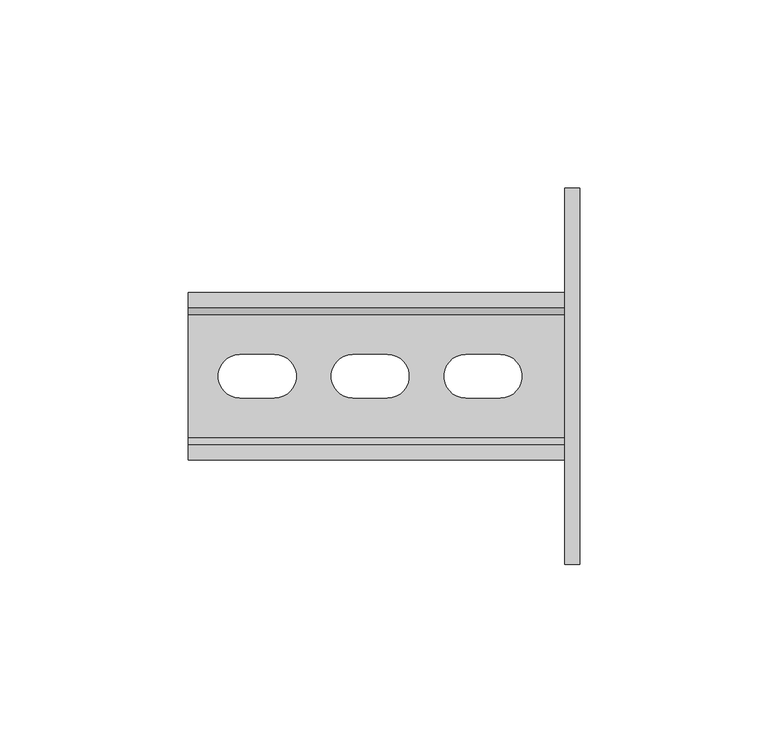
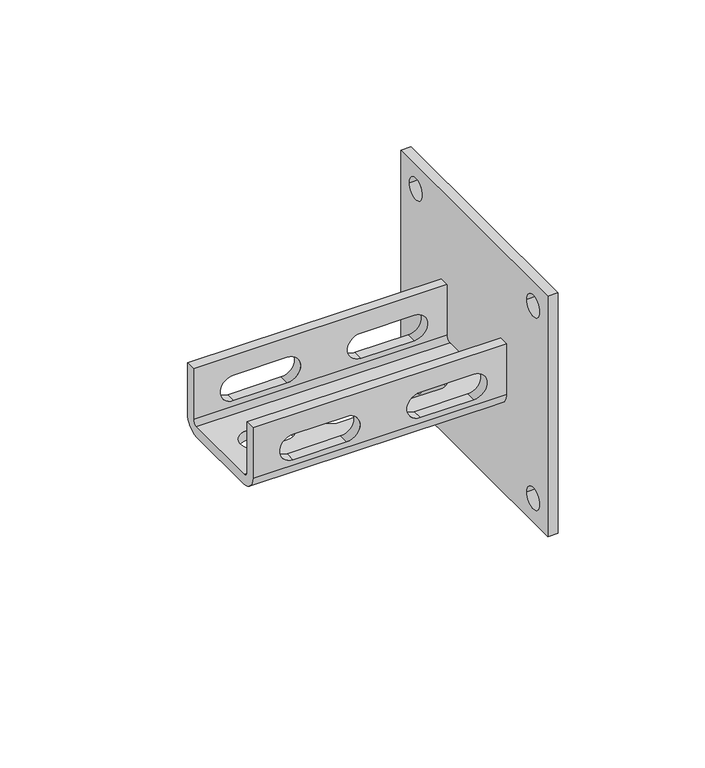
"""IFC4 building model written with IfcOpenShell, lengths in millimetres: valve geometry, SuperFix U Wall Plate  : SuperFix U Wall Plate ."""

import ifcopenshell
import ifcopenshell.guid

model = None  # the IFC model being written
_history = None  # IfcOwnerHistory: only IFC2X3 demands one
_inside = {}  # id of a spatial element -> (the spatial element, [elements in it])
_under = {}  # id of a project, library or spatial element -> (it, [spatial elements below it])
_declared = {}  # id of a project -> (the project, [libraries it declares])
_typed = {}  # id of a type object -> (the type object, [elements of that type])
_made_of = {}  # id of a material, layer set ... -> (it, [elements and type objects made of it])


def new_model(schema):
    """Start an empty IFC model of exactly this schema.

    Asked for "IFC4X3", IfcOpenShell would pick the latest addendum, in which some entities
    have other attributes; the version numbers below select the first issue.
    IFC2X3 requires an IfcOwnerHistory on every rooted entity: one is made here for all.
    """
    global model, _history
    if schema == "IFC4X3":
        model = ifcopenshell.file(schema_version=(4, 3, 0, 0))
    else:
        model = ifcopenshell.file(schema=schema)
    _inside.clear()
    _under.clear()
    _declared.clear()
    _typed.clear()
    _made_of.clear()
    _history = None
    if model.schema == "IFC2X3":
        org = make("IfcOrganization", Name="unknown")
        user = make(
            "IfcPersonAndOrganization",
            ThePerson=make("IfcPerson", FamilyName="unknown"),
            TheOrganization=org,
        )
        app = make(
            "IfcApplication",
            ApplicationDeveloper=org,
            Version="unknown",
            ApplicationFullName="unknown",
            ApplicationIdentifier="unknown",
        )
        _history = make(
            "IfcOwnerHistory",
            OwningUser=user,
            OwningApplication=app,
            ChangeAction="ADDED",
            CreationDate=0,
        )
    return model


def make(cls, **values):
    """One entity of the class cls with the attributes given. An attribute that is None is left unset."""
    return model.create_entity(
        cls, **{name: value for name, value in values.items() if value is not None}
    )


def rooted(cls, **values):
    """An entity with a GlobalId (a new one), such as an element, a storey or a relation."""
    return make(cls, GlobalId=ifcopenshell.guid.new(), OwnerHistory=_history, **values)


def si_unit(unit_type, name, prefix=None):
    """IfcSIUnit, for example si_unit("LENGTHUNIT", "METRE", prefix="MILLI")."""
    return make("IfcSIUnit", UnitType=unit_type, Prefix=prefix, Name=name)


def assignment(units):
    """IfcUnitAssignment: the units of a project."""
    return None if units is None else make("IfcUnitAssignment", Units=units)


def point(xyz):
    """IfcCartesianPoint."""
    return None if xyz is None else make("IfcCartesianPoint", Coordinates=xyz)


def direction(xyz):
    """IfcDirection."""
    return None if xyz is None else make("IfcDirection", DirectionRatios=xyz)


def frame(location, z_axis=None, x_axis=None):
    """IfcAxis2Placement3D, a coordinate frame: its origin and axes. An axis left out is left unset."""
    return make(
        "IfcAxis2Placement3D",
        Location=point(location),
        Axis=direction(z_axis),
        RefDirection=direction(x_axis),
    )


def frame_2d(location, x_axis=None):
    """IfcAxis2Placement2D, a coordinate frame in the plane: its origin and x axis."""
    return make(
        "IfcAxis2Placement2D", Location=point(location), RefDirection=direction(x_axis)
    )


def origin():
    """The frame at (0, 0, 0) with its axes left unset."""
    return frame((0.0, 0.0, 0.0))


def place(relative_to, where):
    """IfcLocalPlacement: puts the frame where relative to a parent placement (None: the world)."""
    return make(
        "IfcLocalPlacement", PlacementRelTo=relative_to, RelativePlacement=where
    )


def context(
    kind, dimensions, precision=None, world=None, true_north=None, identifier=None
):
    """IfcGeometricRepresentationContext, for example the 3D "Model" context."""
    return make(
        "IfcGeometricRepresentationContext",
        ContextIdentifier=identifier,
        ContextType=kind,
        CoordinateSpaceDimension=dimensions,
        Precision=precision,
        WorldCoordinateSystem=world,
        TrueNorth=true_north,
    )


def project(units=None, contexts=None):
    """IfcProject with its units and contexts."""
    return rooted(
        "IfcProject",
        Name="project",
        RepresentationContexts=contexts,
        UnitsInContext=assignment(units),
    )


def spatial(cls, under=None, at=None, **own):
    """A site, building, storey or space (cls), placed at a placement, below another one or the project."""
    s = rooted(cls, ObjectPlacement=at, **own)
    if under is not None:
        _under.setdefault(under.id(), (under, []))[1].append(s)
    return s


def polyline(points):
    """IfcPolyline through the points."""
    return make("IfcPolyline", Points=[point(p) for p in points])


def circle_curve(where, radius):
    """IfcCircle in the frame where."""
    return make("IfcCircle", Position=where, Radius=radius)


def trimmed(basis, trim1, trim2, sense, master):
    """IfcTrimmedCurve: the piece of a basis curve between two trims."""
    return make(
        "IfcTrimmedCurve",
        BasisCurve=basis,
        Trim1=trim1,
        Trim2=trim2,
        SenseAgreement=sense,
        MasterRepresentation=master,
    )


def segment(curve, same_sense, transition):
    """IfcCompositeCurveSegment."""
    return make(
        "IfcCompositeCurveSegment",
        Transition=transition,
        SameSense=same_sense,
        ParentCurve=curve,
    )


def composite_curve(segments, self_intersect=None):
    """IfcCompositeCurve: segments joined end to end."""
    return make("IfcCompositeCurve", Segments=segments, SelfIntersect=self_intersect)


def outline(outer, holes=None, kind="AREA"):
    """IfcArbitraryClosedProfileDef: a profile drawn as a closed curve; with holes, ...WithVoids."""
    if holes is None:
        return make("IfcArbitraryClosedProfileDef", ProfileType=kind, OuterCurve=outer)
    return make(
        "IfcArbitraryProfileDefWithVoids",
        ProfileType=kind,
        OuterCurve=outer,
        InnerCurves=holes,
    )


def extrude(swept, where, along, depth):
    """IfcExtrudedAreaSolid: the profile swept, set in the frame where, extruded along a direction by depth."""
    return make(
        "IfcExtrudedAreaSolid",
        SweptArea=swept,
        Position=where,
        ExtrudedDirection=direction(along),
        Depth=depth,
    )


def shape(context_of_items, identifier, shape_type, items):
    """IfcShapeRepresentation: the items that make up one representation, for example the "Body"."""
    return make(
        "IfcShapeRepresentation",
        ContextOfItems=context_of_items,
        RepresentationIdentifier=identifier,
        RepresentationType=shape_type,
        Items=items,
    )


def source(mapping_origin, context_of_items, identifier, shape_type, items):
    """IfcRepresentationMap: a shape defined once, which mapped items show again and again."""
    return make(
        "IfcRepresentationMap",
        MappingOrigin=mapping_origin,
        MappedRepresentation=shape(context_of_items, identifier, shape_type, items),
    )


def transform(
    local_origin,
    x_axis=None,
    y_axis=None,
    z_axis=None,
    scale=None,
    scale2=None,
    scale3=None,
    uniform=True,
):
    """IfcCartesianTransformationOperator3D, or its non-uniform kind. x_axis, y_axis, z_axis: its Axis1, 2, 3."""
    if uniform:
        return make(
            "IfcCartesianTransformationOperator3D",
            Axis1=direction(x_axis),
            Axis2=direction(y_axis),
            LocalOrigin=point(local_origin),
            Scale=scale,
            Axis3=direction(z_axis),
        )
    return make(
        "IfcCartesianTransformationOperator3DnonUniform",
        Axis1=direction(x_axis),
        Axis2=direction(y_axis),
        LocalOrigin=point(local_origin),
        Scale=scale,
        Axis3=direction(z_axis),
        Scale2=scale2,
        Scale3=scale3,
    )


def mapped(mapping_source, mapping_target):
    """IfcMappedItem: shows the shape of a source again, moved by a transform."""
    return make(
        "IfcMappedItem", MappingSource=mapping_source, MappingTarget=mapping_target
    )


def made_of(thing, what):
    """Note that an element or type object is made of a material, layer set ...; save() writes the relation."""
    if what is not None:
        _made_of.setdefault(what.id(), (what, []))[1].append(thing)
    return thing


def element(
    cls,
    number,
    at=None,
    inside=None,
    cuts=None,
    type_object=None,
    material=None,
    context=None,
    identifier="Body",
    shape_type=None,
    held_by="IfcProductDefinitionShape",
    body=None,
    shapes=None,
    **own,
):
    """One element of the class cls, such as IfcWall. Its Tag is "e" and its number.

    at: its placement. inside: the storey or other place that contains it. cuts: it is an
    opening in that element (IfcRelVoidsElement). A single representation is given by context,
    identifier, shape_type and body (its items); several are given by shapes. held_by: the class
    of the entity that holds the representations. save() writes the other relations.
    """
    e = rooted(cls, Tag="e%d" % number, ObjectPlacement=at, **own)
    if body is not None:
        shapes = [shape(context, identifier, shape_type, body)]
    if shapes is not None:
        e.Representation = make(held_by, Representations=shapes)
    if inside is not None:
        _inside.setdefault(inside.id(), (inside, []))[1].append(e)
    if cuts is not None:
        rooted(
            "IfcRelVoidsElement", RelatingBuildingElement=cuts, RelatedOpeningElement=e
        )
    if type_object is not None:
        _typed.setdefault(type_object.id(), (type_object, []))[1].append(e)
    return made_of(e, material)


def aggregate(whole, parts):
    """IfcRelAggregates: a whole, such as a stair, and the parts it consists of."""
    return rooted("IfcRelAggregates", RelatingObject=whole, RelatedObjects=parts)


def save(model, path):
    """Write the relations noted so far, then the file.

    IfcRelAggregates (storeys below a building ...), IfcRelContainedInSpatialStructure (elements
    in a storey), IfcRelDefinesByType, IfcRelAssociatesMaterial and IfcRelDeclares: one each for
    every whole, place, type object, material and project.
    """
    for whole, parts in _under.values():
        aggregate(whole, parts)
    for where, things in _inside.values():
        rooted(
            "IfcRelContainedInSpatialStructure",
            RelatedElements=things,
            RelatingStructure=where,
        )
    for kind, things in _typed.values():
        rooted("IfcRelDefinesByType", RelatedObjects=things, RelatingType=kind)
    for what, things in _made_of.values():
        rooted("IfcRelAssociatesMaterial", RelatedObjects=things, RelatingMaterial=what)
    for by, libraries in _declared.values():
        rooted("IfcRelDeclares", RelatingContext=by, RelatedDefinitions=libraries)
    model.write(path)


def plane_surface(at):
    """IfcPlane: the flat surface through the origin of the frame at, square to its z axis."""
    return make("IfcPlane", Position=at)


def cylinder_surface(at, radius):
    """IfcCylindricalSurface: all points at the distance radius from the z axis of the frame at."""
    return make("IfcCylindricalSurface", Position=at, Radius=radius)


def revolved_surface(curve, axis_point, axis_direction):
    """IfcSurfaceOfRevolution: the curve turned about the line through axis_point along axis_direction."""
    return make(
        "IfcSurfaceOfRevolution",
        SweptCurve=make("IfcArbitraryOpenProfileDef", ProfileType="CURVE", Curve=curve),
        AxisPosition=make("IfcAxis1Placement", Location=point(axis_point), Axis=direction(axis_direction)),
    )


def advanced_brep(points, edges, surfaces, faces):
    """IfcAdvancedBrep: a solid bounded by faces that lie on surfaces and meet in shared edges.

    An edge is (start, end): straight between two places in points (the first is 0);
    or (start, end, curve); or (start, end, curve, False) where it runs against its curve.
    A face is (place in surfaces, loops), or (place, loops, False) where it looks against
    its surface's normal. A loop lists edges by number (the first is 1), with a minus sign
    where the edge is run from its end to its start. The first loop is the outer one.
    """
    corners = [point(p) for p in points]
    vertices = [make("IfcVertexPoint", VertexGeometry=c) for c in corners]
    made = []
    for start, end, *more in edges:
        made.append(
            make(
                "IfcEdgeCurve",
                EdgeStart=vertices[start],
                EdgeEnd=vertices[end],
                EdgeGeometry=more[0] if more else make("IfcPolyline", Points=[corners[start], corners[end]]),
                SameSense=more[1] if len(more) > 1 else True,
            )
        )
    hull = []
    for where, loops, *sense in faces:
        bounds = []
        for j, loop in enumerate(loops):
            ring = [make("IfcOrientedEdge", EdgeElement=made[abs(k) - 1], Orientation=k > 0) for k in loop]
            bounds.append(
                make(
                    "IfcFaceOuterBound" if j == 0 else "IfcFaceBound",
                    Bound=make("IfcEdgeLoop", EdgeList=ring),
                    Orientation=True,
                )
            )
        hull.append(make("IfcAdvancedFace", Bounds=bounds, FaceSurface=surfaces[where], SameSense=sense[0] if sense else True))
    return make("IfcAdvancedBrep", Outer=make("IfcClosedShell", CfsFaces=hull))


def valve_466bc10e(model_context):
    return source(origin(), model_context, "Body", "SolidModel", [
        extrude(outline(polyline([(-50.0, 63.5), (50.0, 63.5), (50.0, -36.5), (-50.0, -36.5), (-50.0, 63.5)]), holes=[composite_curve([segment(trimmed(circle_curve(frame_2d((40.0, -26.5)), 4.4), [point((35.6, -26.5))], [point((44.4, -26.5))], True, "CARTESIAN"), True, "CONTINUOUS"), segment(trimmed(circle_curve(frame_2d((40.0, -26.5)), 4.4), [point((44.4, -26.5))], [point((35.6, -26.5))], True, "CARTESIAN"), True, "CONTINUOUS")], self_intersect=False), composite_curve([segment(trimmed(circle_curve(frame_2d((-40.0, -26.5)), 4.4), [point((-44.4, -26.5))], [point((-35.6, -26.5))], True, "CARTESIAN"), True, "CONTINUOUS"), segment(trimmed(circle_curve(frame_2d((-40.0, -26.5)), 4.4), [point((-35.6, -26.5))], [point((-44.4, -26.5))], True, "CARTESIAN"), True, "CONTINUOUS")], self_intersect=False), composite_curve([segment(trimmed(circle_curve(frame_2d((-40.0, 53.5)), 4.4), [point((-44.4, 53.5))], [point((-35.6, 53.5))], True, "CARTESIAN"), True, "CONTINUOUS"), segment(trimmed(circle_curve(frame_2d((-40.0, 53.5)), 4.4), [point((-35.6, 53.5))], [point((-44.4, 53.5))], True, "CARTESIAN"), True, "CONTINUOUS")], self_intersect=False), composite_curve([segment(trimmed(circle_curve(frame_2d((40.0, 53.5)), 4.4), [point((35.6, 53.5))], [point((44.4, 53.5))], True, "CARTESIAN"), True, "CONTINUOUS"), segment(trimmed(circle_curve(frame_2d((40.0, 53.5)), 4.4), [point((44.4, 53.5))], [point((35.6, 53.5))], True, "CARTESIAN"), True, "CONTINUOUS")], self_intersect=False)]), frame((-4.0, 0.0, 0.0), z_axis=(1.0, 0.0, 0.0), x_axis=(0.0, 1.0, 0.0)), (0.0, 0.0, 1.0), 4.0),
        advanced_brep(
        [(-4.0, -22.25, 6.0), (-4.0, -16.25, 0.0), (-4.0, 16.25, 0.0), (-4.0, 22.25, 6.0), (-4.0, 22.25, 27.0), (-4.0, 18.25, 27.0), (-4.0, 18.25, 6.0), (-4.0, 16.25, 4.0), (-4.0, -16.25, 4.0), (-4.0, -18.25, 6.0), (-4.0, -18.25, 27.0), (-4.0, -22.25, 27.0), (-104.0, -22.25, 6.0), (-104.0, -22.25, 27.0), (-104.0, -18.25, 27.0), (-104.0, -18.25, 6.0), (-104.0, -16.25, 4.0), (-104.0, 16.25, 4.0), (-104.0, 18.25, 6.0), (-104.0, 18.25, 27.0), (-104.0, 22.25, 27.0), (-104.0, 22.25, 6.0), (-104.0, 16.25, 0.0), (-104.0, -16.25, 0.0), (-60.2929032, 5.75, 0.0), (-60.2929032, -5.75, 0.0), (-51.0885659, -5.75, 0.0), (-51.0885659, 5.75, 0.0), (-30.2929032, 5.75, 0.0), (-30.2929032, -5.75, 0.0), (-21.0885659, -5.75, 0.0), (-21.0885659, 5.75, 0.0), (-90.2929032, 5.75, 0.0), (-90.2929032, -5.75, 0.0), (-81.0885659, -5.75, 0.0), (-81.0885659, 5.75, 0.0), (-17.1329383, 22.25, 18.75), (-38.1329383, 22.25, 18.75), (-38.1329383, 22.25, 8.2618096), (-17.1329383, 22.25, 8.2618096), (-67.1329383, 22.25, 18.75), (-88.1329383, 22.25, 18.75), (-88.1329383, 22.25, 8.2618096), (-67.1329383, 22.25, 8.2618096), (-38.1329383, 18.25, 18.75), (-17.1329383, 18.25, 18.75), (-17.1329383, 18.25, 8.2618096), (-38.1329383, 18.25, 8.2618096), (-88.1329383, 18.25, 18.75), (-67.1329383, 18.25, 18.75), (-67.1329383, 18.25, 8.2618096), (-88.1329383, 18.25, 8.2618096), (-60.2929032, -5.75, 4.0), (-60.2929032, 5.75, 4.0), (-51.0885659, 5.75, 4.0), (-51.0885659, -5.75, 4.0), (-30.2929032, -5.75, 4.0), (-30.2929032, 5.75, 4.0), (-21.0885659, 5.75, 4.0), (-21.0885659, -5.75, 4.0), (-90.2929032, -5.75, 4.0), (-90.2929032, 5.75, 4.0), (-81.0885659, 5.75, 4.0), (-81.0885659, -5.75, 4.0), (-17.1329383, -18.25, 18.75), (-38.1329383, -18.25, 18.75), (-38.1329383, -18.25, 8.2618096), (-17.1329383, -18.25, 8.2618096), (-67.1329383, -18.25, 18.75), (-88.1329383, -18.25, 18.75), (-88.1329383, -18.25, 8.2618096), (-67.1329383, -18.25, 8.2618096), (-38.1329383, -22.25, 18.75), (-17.1329383, -22.25, 18.75), (-17.1329383, -22.25, 8.2618096), (-38.1329383, -22.25, 8.2618096), (-88.1329383, -22.25, 18.75), (-67.1329383, -22.25, 18.75), (-67.1329383, -22.25, 8.2618096), (-88.1329383, -22.25, 8.2618096)],
        [
            (0, 1, circle_curve(frame((-4.0, -16.25, 6.0), z_axis=(1.0, 0.0, 0.0), x_axis=(0.0, 1.0, 0.0)), 6.0)),
            (1, 2),
            (2, 3, circle_curve(frame((-4.0, 16.25, 6.0), z_axis=(1.0, 0.0, 0.0), x_axis=(0.0, 1.0, 0.0)), 6.0)),
            (3, 4),
            (4, 5),
            (5, 6),
            (6, 7, circle_curve(frame((-4.0, 16.25, 6.0), z_axis=(-1.0, 0.0, 0.0), x_axis=(0.0, 1.0, 0.0)), 2.0)),
            (7, 8),
            (8, 9, circle_curve(frame((-4.0, -16.25, 6.0), z_axis=(-1.0, 0.0, 0.0), x_axis=(0.0, 1.0, 0.0)), 2.0)),
            (9, 10),
            (10, 11),
            (11, 0),
            (12, 13),
            (13, 14),
            (14, 15),
            (15, 16, circle_curve(frame((-104.0, -16.25, 6.0), z_axis=(1.0, 0.0, 0.0), x_axis=(0.0, 1.0, 0.0)), 2.0)),
            (16, 17),
            (17, 18, circle_curve(frame((-104.0, 16.25, 6.0), z_axis=(1.0, 0.0, 0.0), x_axis=(0.0, 1.0, 0.0)), 2.0)),
            (18, 19),
            (19, 20),
            (20, 21),
            (21, 22, circle_curve(frame((-104.0, 16.25, 6.0), z_axis=(-1.0, 0.0, 0.0), x_axis=(0.0, 1.0, 0.0)), 6.0)),
            (22, 23),
            (23, 12, circle_curve(frame((-104.0, -16.25, 6.0), z_axis=(-1.0, 0.0, 0.0), x_axis=(0.0, 1.0, 0.0)), 6.0)),
            (1, 23),
            (22, 2),
            (24, 25, circle_curve(frame((-60.2929032, 0.0, 0.0), z_axis=(0.0, 0.0, 1.0), x_axis=(1.0, 0.0, 0.0)), 5.75)),
            (25, 26),
            (26, 27, circle_curve(frame((-51.0885659, 0.0, 0.0), z_axis=(0.0, 0.0, 1.0), x_axis=(1.0, 0.0, 0.0)), 5.75)),
            (27, 24),
            (28, 29, circle_curve(frame((-30.2929032, 0.0, 0.0), z_axis=(0.0, 0.0, 1.0), x_axis=(1.0, 0.0, 0.0)), 5.75)),
            (29, 30),
            (30, 31, circle_curve(frame((-21.0885659, 0.0, 0.0), z_axis=(0.0, 0.0, 1.0), x_axis=(1.0, 0.0, 0.0)), 5.75)),
            (31, 28),
            (32, 33, circle_curve(frame((-90.2929032, 0.0, 0.0), z_axis=(0.0, 0.0, 1.0), x_axis=(1.0, 0.0, 0.0)), 5.75)),
            (33, 34),
            (34, 35, circle_curve(frame((-81.0885659, 0.0, 0.0), z_axis=(0.0, 0.0, 1.0), x_axis=(1.0, 0.0, 0.0)), 5.75)),
            (35, 32),
            (3, 21),
            (20, 4),
            (36, 37),
            (37, 38, circle_curve(frame((-38.1329383, 22.25, 13.5059048), z_axis=(0.0, -1.0, 0.0), x_axis=(0.0, 0.0, 1.0)), 5.2440952)),
            (38, 39),
            (39, 36, circle_curve(frame((-17.1329383, 22.25, 13.5059048), z_axis=(0.0, -1.0, 0.0), x_axis=(0.0, 0.0, 1.0)), 5.2440952)),
            (40, 41),
            (41, 42, circle_curve(frame((-88.1329383, 22.25, 13.5059048), z_axis=(0.0, -1.0, 0.0), x_axis=(0.0, 0.0, 1.0)), 5.2440952)),
            (42, 43),
            (43, 40, circle_curve(frame((-67.1329383, 22.25, 13.5059048), z_axis=(0.0, -1.0, 0.0), x_axis=(0.0, 0.0, 1.0)), 5.2440952)),
            (5, 19),
            (18, 6),
            (44, 45),
            (45, 46, circle_curve(frame((-17.1329383, 18.25, 13.5059048), z_axis=(0.0, 1.0, 0.0), x_axis=(0.0, 0.0, 1.0)), 5.2440952)),
            (46, 47),
            (47, 44, circle_curve(frame((-38.1329383, 18.25, 13.5059048), z_axis=(0.0, 1.0, 0.0), x_axis=(0.0, 0.0, 1.0)), 5.2440952)),
            (48, 49),
            (49, 50, circle_curve(frame((-67.1329383, 18.25, 13.5059048), z_axis=(0.0, 1.0, 0.0), x_axis=(0.0, 0.0, 1.0)), 5.2440952)),
            (50, 51),
            (51, 48, circle_curve(frame((-88.1329383, 18.25, 13.5059048), z_axis=(0.0, 1.0, 0.0), x_axis=(0.0, 0.0, 1.0)), 5.2440952)),
            (7, 17),
            (16, 8),
            (52, 53, circle_curve(frame((-60.2929032, 0.0, 4.0), z_axis=(0.0, 0.0, -1.0), x_axis=(1.0, 0.0, 0.0)), 5.75)),
            (53, 54),
            (54, 55, circle_curve(frame((-51.0885659, 0.0, 4.0), z_axis=(0.0, 0.0, -1.0), x_axis=(1.0, 0.0, 0.0)), 5.75)),
            (55, 52),
            (56, 57, circle_curve(frame((-30.2929032, 0.0, 4.0), z_axis=(0.0, 0.0, -1.0), x_axis=(1.0, 0.0, 0.0)), 5.75)),
            (57, 58),
            (58, 59, circle_curve(frame((-21.0885659, 0.0, 4.0), z_axis=(0.0, 0.0, -1.0), x_axis=(1.0, 0.0, 0.0)), 5.75)),
            (59, 56),
            (60, 61, circle_curve(frame((-90.2929032, 0.0, 4.0), z_axis=(0.0, 0.0, -1.0), x_axis=(1.0, 0.0, 0.0)), 5.75)),
            (61, 62),
            (62, 63, circle_curve(frame((-81.0885659, 0.0, 4.0), z_axis=(0.0, 0.0, -1.0), x_axis=(1.0, 0.0, 0.0)), 5.75)),
            (63, 60),
            (9, 15),
            (14, 10),
            (64, 65),
            (65, 66, circle_curve(frame((-38.1329383, -18.25, 13.5059048), z_axis=(0.0, -1.0, 0.0), x_axis=(0.0, 0.0, 1.0)), 5.2440952)),
            (66, 67),
            (67, 64, circle_curve(frame((-17.1329383, -18.25, 13.5059048), z_axis=(0.0, -1.0, 0.0), x_axis=(0.0, 0.0, 1.0)), 5.2440952)),
            (68, 69),
            (69, 70, circle_curve(frame((-88.1329383, -18.25, 13.5059048), z_axis=(0.0, -1.0, 0.0), x_axis=(0.0, 0.0, 1.0)), 5.2440952)),
            (70, 71),
            (71, 68, circle_curve(frame((-67.1329383, -18.25, 13.5059048), z_axis=(0.0, -1.0, 0.0), x_axis=(0.0, 0.0, 1.0)), 5.2440952)),
            (11, 13),
            (12, 0),
            (72, 73),
            (73, 74, circle_curve(frame((-17.1329383, -22.25, 13.5059048), z_axis=(0.0, 1.0, 0.0), x_axis=(0.0, 0.0, 1.0)), 5.2440952)),
            (74, 75),
            (75, 72, circle_curve(frame((-38.1329383, -22.25, 13.5059048), z_axis=(0.0, 1.0, 0.0), x_axis=(0.0, 0.0, 1.0)), 5.2440952)),
            (76, 77),
            (77, 78, circle_curve(frame((-67.1329383, -22.25, 13.5059048), z_axis=(0.0, 1.0, 0.0), x_axis=(0.0, 0.0, 1.0)), 5.2440952)),
            (78, 79),
            (79, 76, circle_curve(frame((-88.1329383, -22.25, 13.5059048), z_axis=(0.0, 1.0, 0.0), x_axis=(0.0, 0.0, 1.0)), 5.2440952)),
            (24, 53),
            (52, 25),
            (55, 26),
            (54, 27),
            (28, 57),
            (56, 29),
            (59, 30),
            (58, 31),
            (32, 61),
            (60, 33),
            (63, 34),
            (62, 35),
            (44, 37),
            (36, 45),
            (72, 65),
            (64, 73),
            (39, 46),
            (67, 74),
            (38, 47),
            (66, 75),
            (48, 41),
            (40, 49),
            (76, 69),
            (68, 77),
            (43, 50),
            (71, 78),
            (42, 51),
            (70, 79),
        ],
        [
            plane_surface(frame((-4.0, -10.25, 6.0), z_axis=(1.0, 0.0, 0.0), x_axis=(0.0, 0.0, 1.0))),
            plane_surface(frame((-104.0, -10.25, 6.0), z_axis=(-1.0, 0.0, 0.0), x_axis=(0.0, 0.0, -1.0))),
            plane_surface(frame((-4.0, -16.25, 0.0), z_axis=(0.0, 0.0, -1.0), x_axis=(-1.0, 0.0, 0.0))),
            plane_surface(frame((-4.0, 22.25, 6.0), z_axis=(0.0, 1.0, 0.0), x_axis=(-1.0, 0.0, 0.0))),
            plane_surface(frame((-4.0, 18.25, 27.0), z_axis=(0.0, -1.0, 0.0), x_axis=(-1.0, 0.0, 0.0))),
            plane_surface(frame((-4.0, 16.25, 4.0), z_axis=(0.0, 0.0, 1.0), x_axis=(-1.0, 0.0, 0.0))),
            plane_surface(frame((-4.0, -18.25, 6.0), z_axis=(0.0, 1.0, 0.0), x_axis=(-1.0, 0.0, 0.0))),
            plane_surface(frame((-4.0, -22.25, 27.0), z_axis=(0.0, -1.0, 0.0), x_axis=(-1.0, 0.0, 0.0))),
            cylinder_surface(frame((-104.0, -16.25, 6.0), z_axis=(1.0, 0.0, 0.0), x_axis=(0.0, 1.0, 0.0)), 6.0),
            cylinder_surface(frame((-104.0, 16.25, 6.0), z_axis=(1.0, 0.0, 0.0), x_axis=(0.0, 1.0, 0.0)), 6.0),
            plane_surface(frame((-4.0, 22.25, 27.0), z_axis=(0.0, 0.0, 1.0), x_axis=(-1.0, 0.0, 0.0))),
            revolved_surface(polyline([(-104.0, 18.25, 6.0), (-4.0, 18.25, 6.0)]), (-104.0, 16.25, 6.0), (-1.0, 0.0, 0.0)),
            revolved_surface(polyline([(-104.0, -14.25, 6.0), (-4.0, -14.25, 6.0)]), (-104.0, -16.25, 6.0), (-1.0, 0.0, 0.0)),
            plane_surface(frame((-4.0, -18.25, 27.0), z_axis=(0.0, 0.0, 1.0), x_axis=(-1.0, 0.0, 0.0))),
            revolved_surface(polyline([(-54.5429032, 0.0, 4.0), (-54.5429032, 0.0, 0.0)]), (-60.2929032, 0.0, 0.0), (0.0, 0.0, 1.0)),
            plane_surface(frame((-60.2929032, -5.75, 5.0), z_axis=(0.0, 1.0, 0.0), x_axis=(0.0, 0.0, -1.0))),
            revolved_surface(polyline([(-45.3385659, 0.0, 4.0), (-45.3385659, 0.0, 0.0)]), (-51.0885659, 0.0, 0.0), (0.0, 0.0, 1.0)),
            plane_surface(frame((-51.0885659, 5.75, 5.0), z_axis=(0.0, -1.0, 0.0), x_axis=(0.0, 0.0, -1.0))),
            revolved_surface(polyline([(-24.5429032, 0.0, 4.0), (-24.5429032, 0.0, 0.0)]), (-30.2929032, 0.0, 0.0), (0.0, 0.0, 1.0)),
            plane_surface(frame((-30.2929032, -5.75, 5.0), z_axis=(0.0, 1.0, 0.0), x_axis=(0.0, 0.0, -1.0))),
            revolved_surface(polyline([(-15.338565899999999, 0.0, 4.0), (-15.338565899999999, 0.0, 0.0)]), (-21.0885659, 0.0, 0.0), (0.0, 0.0, 1.0)),
            plane_surface(frame((-21.0885659, 5.75, 5.0), z_axis=(0.0, -1.0, 0.0), x_axis=(0.0, 0.0, -1.0))),
            revolved_surface(polyline([(-84.5429032, 0.0, 4.0), (-84.5429032, 0.0, 0.0)]), (-90.2929032, 0.0, 0.0), (0.0, 0.0, 1.0)),
            plane_surface(frame((-90.2929032, -5.75, 5.0), z_axis=(0.0, 1.0, 0.0), x_axis=(0.0, 0.0, -1.0))),
            revolved_surface(polyline([(-75.3385659, 0.0, 4.0), (-75.3385659, 0.0, 0.0)]), (-81.0885659, 0.0, 0.0), (0.0, 0.0, 1.0)),
            plane_surface(frame((-81.0885659, 5.75, 5.0), z_axis=(0.0, -1.0, 0.0), x_axis=(0.0, 0.0, -1.0))),
            plane_surface(frame((-38.1329383, 22.25, 18.75), z_axis=(0.0, 0.0, -1.0), x_axis=(0.0, -1.0, 0.0))),
            revolved_surface(polyline([(-17.1329383, 22.25, 18.75), (-17.1329383, 18.25, 18.75)]), (-17.1329383, -22.25, 13.5059048), (0.0, 1.0, 0.0)),
            revolved_surface(polyline([(-17.1329383, -18.25, 18.75), (-17.1329383, -22.25, 18.75)]), (-17.1329383, -22.25, 13.5059048), (0.0, 1.0, 0.0)),
            plane_surface(frame((-17.1329383, 22.25, 8.2618096), z_axis=(0.0, 0.0, 1.0), x_axis=(0.0, -1.0, 0.0))),
            revolved_surface(polyline([(-38.1329383, 22.25, 18.75), (-38.1329383, 18.25, 18.75)]), (-38.1329383, -22.25, 13.5059048), (0.0, 1.0, 0.0)),
            revolved_surface(polyline([(-38.1329383, -18.25, 18.75), (-38.1329383, -22.25, 18.75)]), (-38.1329383, -22.25, 13.5059048), (0.0, 1.0, 0.0)),
            plane_surface(frame((-88.1329383, 22.25, 18.75), z_axis=(0.0, 0.0, -1.0), x_axis=(0.0, -1.0, 0.0))),
            revolved_surface(polyline([(-67.1329383, 22.25, 18.75), (-67.1329383, 18.25, 18.75)]), (-67.1329383, -22.25, 13.5059048), (0.0, 1.0, 0.0)),
            revolved_surface(polyline([(-67.1329383, -18.25, 18.75), (-67.1329383, -22.25, 18.75)]), (-67.1329383, -22.25, 13.5059048), (0.0, 1.0, 0.0)),
            plane_surface(frame((-67.1329383, 22.25, 8.2618096), z_axis=(0.0, 0.0, 1.0), x_axis=(0.0, -1.0, 0.0))),
            revolved_surface(polyline([(-88.1329383, 22.25, 18.75), (-88.1329383, 18.25, 18.75)]), (-88.1329383, -22.25, 13.5059048), (0.0, 1.0, 0.0)),
            revolved_surface(polyline([(-88.1329383, -18.25, 18.75), (-88.1329383, -22.25, 18.75)]), (-88.1329383, -22.25, 13.5059048), (0.0, 1.0, 0.0)),
        ],
        [
            (0, [[1, 2, 3, 4, 5, 6, 7, 8, 9, 10, 11, 12]]),
            (1, [[13, 14, 15, 16, 17, 18, 19, 20, 21, 22, 23, 24]]),
            (2, [[-2, 25, -23, 26], [27, 28, 29, 30], [31, 32, 33, 34], [35, 36, 37, 38]]),
            (3, [[-4, 39, -21, 40], [41, 42, 43, 44], [45, 46, 47, 48]]),
            (4, [[-6, 49, -19, 50], [51, 52, 53, 54], [55, 56, 57, 58]]),
            (5, [[-8, 59, -17, 60], [61, 62, 63, 64], [65, 66, 67, 68], [69, 70, 71, 72]]),
            (6, [[-10, 73, -15, 74], [75, 76, 77, 78], [79, 80, 81, 82]]),
            (7, [[-12, 83, -13, 84], [85, 86, 87, 88], [89, 90, 91, 92]]),
            (8, [[-1, -84, -24, -25]]),
            (9, [[-3, -26, -22, -39]]),
            (10, [[-5, -40, -20, -49]]),
            (11, [[-7, -50, -18, -59]]),
            (12, [[-9, -60, -16, -73]]),
            (13, [[-11, -74, -14, -83]]),
            (14, [[93, -61, 94, -27]]),
            (15, [[-94, -64, 95, -28]]),
            (16, [[-95, -63, 96, -29]]),
            (17, [[-93, -30, -96, -62]]),
            (18, [[97, -65, 98, -31]]),
            (19, [[-98, -68, 99, -32]]),
            (20, [[-99, -67, 100, -33]]),
            (21, [[-97, -34, -100, -66]]),
            (22, [[101, -69, 102, -35]]),
            (23, [[-102, -72, 103, -36]]),
            (24, [[-103, -71, 104, -37]]),
            (25, [[-101, -38, -104, -70]]),
            (26, [[105, -41, 106, -51]]),
            (26, [[107, -75, 108, -85]]),
            (27, [[-106, -44, 109, -52]]),
            (28, [[-108, -78, 110, -86]]),
            (29, [[-109, -43, 111, -53]]),
            (29, [[-110, -77, 112, -87]]),
            (30, [[-105, -54, -111, -42]]),
            (31, [[-107, -88, -112, -76]]),
            (32, [[113, -45, 114, -55]]),
            (32, [[115, -79, 116, -89]]),
            (33, [[-114, -48, 117, -56]]),
            (34, [[-116, -82, 118, -90]]),
            (35, [[-117, -47, 119, -57]]),
            (35, [[-118, -81, 120, -91]]),
            (36, [[-113, -58, -119, -46]]),
            (37, [[-115, -92, -120, -80]]),
        ],
    ),
    ])


if __name__ == "__main__":
    model = new_model("IFC4")
    model_context = context("Model", 3, world=origin())
    ifc_project = project(units=[si_unit("LENGTHUNIT", "METRE", prefix="MILLI")], contexts=[model_context])
    site = spatial("IfcSite", under=ifc_project)
    building = spatial("IfcBuilding", under=site)
    placement = place(None, origin())
    valve_shape = valve_466bc10e(model_context)
    element("IfcValve", 1, ObjectType="SuperFix U Wall Plate  : SuperFix U Wall Plate ", at=placement, inside=building, context=model_context, shape_type="MappedRepresentation", body=[
        mapped(valve_shape, transform((0.0, 0.0, 0.0), x_axis=(1.0, 0.0, 0.0), y_axis=(0.0, 1.0, 0.0), z_axis=(0.0, 0.0, 1.0))),
    ])
    save(model, "model.ifc")
